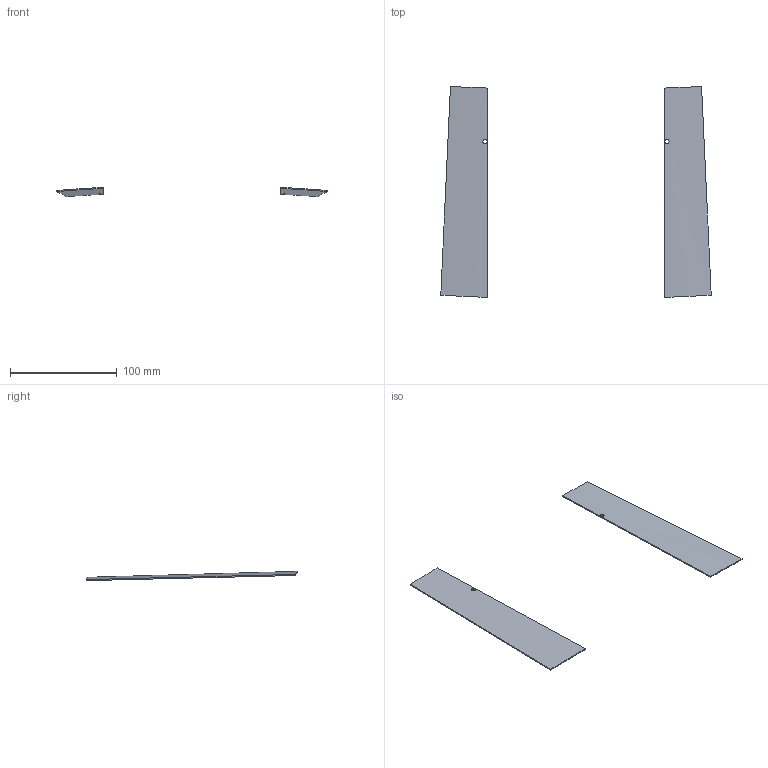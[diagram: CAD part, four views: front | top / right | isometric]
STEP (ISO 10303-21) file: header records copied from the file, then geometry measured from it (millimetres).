
FILE_DESCRIPTION(/* description */ ('','CAx-IF Rec.Pracs.---Representation and Presentation of Product Manufacturing Information (PMI)---4.0---2014-10-13'),/* implementation_level */ '2;1');
FILE_NAME(/* name */ '20thhuckinsdepthchargebases.step',/* time_stamp */ '2025-03-22T10:59:59+11:00',/* author */ (''),/* organization */ (''),/* preprocessor_version */ 'ST-DEVELOPER v20',/* originating_system */ 'Autodesk Translation Framework v13.20.0.188',/* authorisation */ '');
FILE_SCHEMA (('AP242_MANAGED_MODEL_BASED_3D_ENGINEERING_MIM_LF { 1 0 10303 442 1 1 4 }'));
Length unit declared in the file: millimetre
Products named in the file (1): HuckinsDeckParts
Bounding box: 253 x 197.29 x 8.66 mm (x, y, z)
Volume: 15301.3 mm3; surface area: 31780.5 mm2
Topology: 2 solids, 2 shells, 14 faces, 34 edges, 24 vertices
Faces by surface type: cylinder 6, plane 6, bspline 2
Full cylindrical faces by diameter (mm): 4 x2
Entity records: 673 total; most frequent: CARTESIAN_POINT 311, ORIENTED_EDGE 68, DIRECTION 56, EDGE_CURVE 34, VERTEX_POINT 24, AXIS2_PLACEMENT_3D 21, EDGE_LOOP 18, FACE_OUTER_BOUND 14
